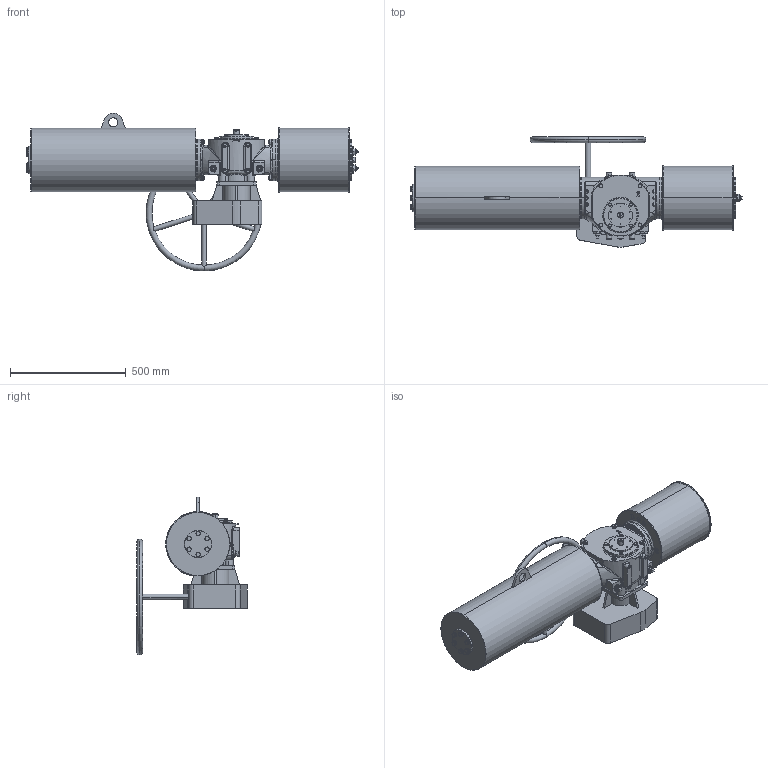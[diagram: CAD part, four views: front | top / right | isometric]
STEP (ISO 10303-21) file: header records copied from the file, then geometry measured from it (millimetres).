
FILE_DESCRIPTION (( 'STEP AP203' ), '1' );
FILE_NAME ('VTS2-250-SR-MW-FO.STEP', '2023-01-01T08:01:35', ( '' ), ( '' ), 'SwSTEP 2.0', 'SolidWorks 2020', '' );
FILE_SCHEMA (( 'CONFIG_CONTROL_DESIGN' ));
Length unit declared in the file: millimetre
Products named in the file (1): VTS2-250-SR-MW-FO
Bounding box: 1433.78 x 476.23 x 681.5 mm (x, y, z)
Volume: 81737063.9 mm3; surface area: 2398966 mm2
Topology: 9 solids, 11 shells, 2035 faces, 5189 edges, 3261 vertices
Faces by surface type: plane 817, cylinder 636, cone 420, bspline 158, torus 4
Entity records: 77075 total; most frequent: CARTESIAN_POINT 29083, ORIENTED_EDGE 10262, DIRECTION 9827, EDGE_CURVE 5131, AXIS2_PLACEMENT_3D 3838, VERTEX_POINT 3261, EDGE_LOOP 2260, VECTOR 2151
